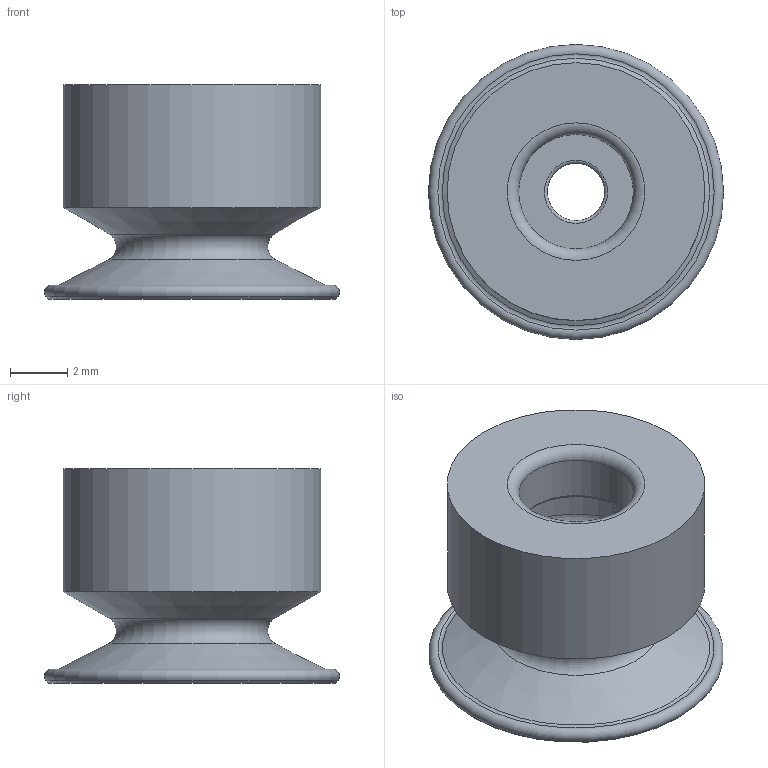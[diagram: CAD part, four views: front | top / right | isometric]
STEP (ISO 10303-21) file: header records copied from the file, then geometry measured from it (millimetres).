
FILE_DESCRIPTION(('STEP AP203'),'1');
FILE_NAME('_3D.stp','2024-06-11T22:46:57',(' '),(' '),'Spatial InterOp 3D',' ',' ');
FILE_SCHEMA(('CONFIG_CONTROL_DESIGN'));
Length unit declared in the file: millimetre
Products named in the file (1): 1
Bounding box: 10.3 x 10.3 x 7.5 mm (x, y, z)
Volume: 306.6 mm3; surface area: 516.1 mm2
Topology: 1 solids, 1 shells, 53 faces, 138 edges, 89 vertices
Faces by surface type: plane 28, cylinder 13, torus 8, cone 4
Full cylindrical faces by diameter (mm): 2 x1, 4 x1, 6 x1, 7 x1, 9 x1
Entity records: 1550 total; most frequent: DIRECTION 276, CARTESIAN_POINT 254, ORIENTED_EDGE 232, EDGE_CURVE 116, AXIS2_PLACEMENT_3D 106, VERTEX_POINT 84, EDGE_LOOP 74, FACE_OUTER_BOUND 66
